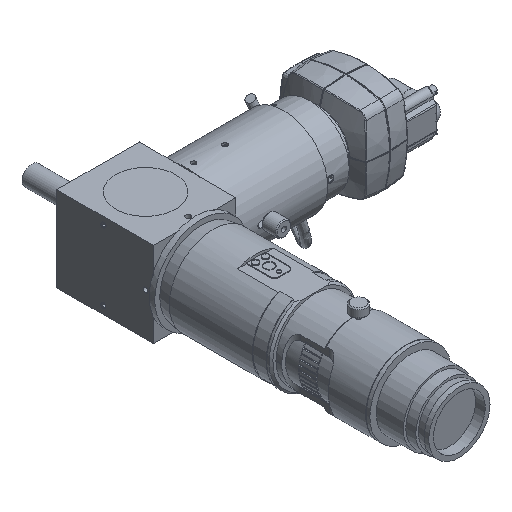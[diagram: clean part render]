
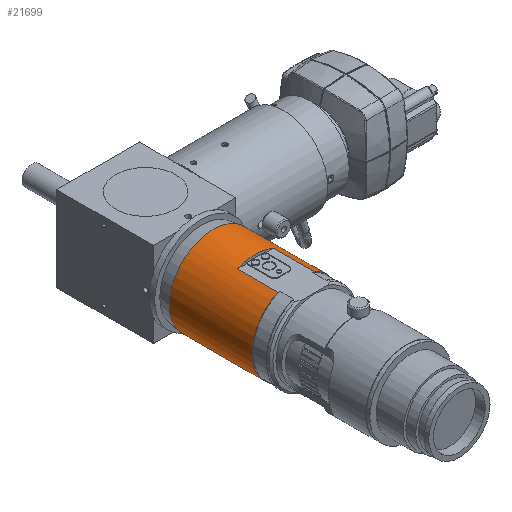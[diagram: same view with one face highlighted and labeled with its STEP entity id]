
A CAD part, isometric view. The second image highlights one B-rep face of the part: STEP entity #21699.
In plain terms, the highlighted cylindrical face has radius 22.65 mm (diameter 45.3 mm), a full revolution.
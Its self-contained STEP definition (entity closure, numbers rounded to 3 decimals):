
#1807=CYLINDRICAL_SURFACE('',#23500,22.65);
#2766=FACE_OUTER_BOUND('',#4020,.T.);
#4020=EDGE_LOOP('',(#17313,#17314,#17315,#17316,#17317,#17318,#17319,#17320,
#17321));
#5106=CIRCLE('',#23460,22.65);
#5107=CIRCLE('',#23461,22.65);
#5134=CIRCLE('',#23497,22.65);
#5135=CIRCLE('',#23498,22.65);
#5137=CIRCLE('',#23501,22.65);
#6174=LINE('',#49373,#7525);
#6175=LINE('',#49376,#7526);
#6176=LINE('',#49377,#7527);
#7525=VECTOR('',#27594,10.);
#7526=VECTOR('',#27597,10.);
#7527=VECTOR('',#27598,22.65);
#9519=VERTEX_POINT('',#49130);
#9520=VERTEX_POINT('',#49131);
#9561=VERTEX_POINT('',#49362);
#9562=VERTEX_POINT('',#49364);
#9563=VERTEX_POINT('',#49366);
#9565=VERTEX_POINT('',#49372);
#9566=VERTEX_POINT('',#49374);
#12226=EDGE_CURVE('',#9519,#9520,#5106,.T.);
#12227=EDGE_CURVE('',#9520,#9519,#5107,.T.);
#12274=EDGE_CURVE('',#9561,#9562,#5134,.T.);
#12275=EDGE_CURVE('',#9562,#9563,#5135,.T.);
#12278=EDGE_CURVE('',#9561,#9565,#6174,.T.);
#12279=EDGE_CURVE('',#9565,#9566,#5137,.T.);
#12280=EDGE_CURVE('',#9566,#9563,#6175,.T.);
#12281=EDGE_CURVE('',#9562,#9520,#6176,.T.);
#17313=ORIENTED_EDGE('',*,*,#12278,.T.);
#17314=ORIENTED_EDGE('',*,*,#12279,.T.);
#17315=ORIENTED_EDGE('',*,*,#12280,.T.);
#17316=ORIENTED_EDGE('',*,*,#12275,.F.);
#17317=ORIENTED_EDGE('',*,*,#12281,.T.);
#17318=ORIENTED_EDGE('',*,*,#12227,.T.);
#17319=ORIENTED_EDGE('',*,*,#12226,.T.);
#17320=ORIENTED_EDGE('',*,*,#12281,.F.);
#17321=ORIENTED_EDGE('',*,*,#12274,.F.);
#21699=ADVANCED_FACE('',(#2766),#1807,.T.);
#23460=AXIS2_PLACEMENT_3D('',#49132,#27504,#27505);
#23461=AXIS2_PLACEMENT_3D('',#49133,#27506,#27507);
#23497=AXIS2_PLACEMENT_3D('',#49365,#27585,#27586);
#23498=AXIS2_PLACEMENT_3D('',#49367,#27587,#27588);
#23500=AXIS2_PLACEMENT_3D('',#49371,#27592,#27593);
#23501=AXIS2_PLACEMENT_3D('',#49375,#27595,#27596);
#27504=DIRECTION('center_axis',(0.,-1.,0.));
#27505=DIRECTION('ref_axis',(0.,0.,
1.));
#27506=DIRECTION('center_axis',(0.,-1.,0.));
#27507=DIRECTION('ref_axis',(0.,0.,
1.));
#27585=DIRECTION('center_axis',(0.,-1.,0.));
#27586=DIRECTION('ref_axis',(0.,0.,
1.));
#27587=DIRECTION('center_axis',(0.,-1.,0.));
#27588=DIRECTION('ref_axis',(0.,0.,
1.));
#27592=DIRECTION('center_axis',(0.,-1.,0.));
#27593=DIRECTION('ref_axis',(0.,0.,
1.));
#27594=DIRECTION('',(0.,1.,0.));
#27595=DIRECTION('center_axis',(0.,1.,0.));
#27596=DIRECTION('ref_axis',(0.,0.,
1.));
#27597=DIRECTION('',(0.,-1.,0.));
#27598=DIRECTION('',(0.,1.,0.));
#49130=CARTESIAN_POINT('',(-3.63,-29.155,27.65));
#49131=CARTESIAN_POINT('',(-3.63,-29.155,-17.65));
#49132=CARTESIAN_POINT('Origin',(-3.63,-29.155,5.));
#49133=CARTESIAN_POINT('Origin',(-3.63,-29.155,5.));
#49362=CARTESIAN_POINT('',(-12.936,-72.055,25.65));
#49364=CARTESIAN_POINT('',(-3.63,-72.055,-17.65));
#49365=CARTESIAN_POINT('Origin',(-3.63,-72.055,5.));
#49366=CARTESIAN_POINT('',(5.676,-72.055,25.65));
#49367=CARTESIAN_POINT('Origin',(-3.63,-72.055,5.));
#49371=CARTESIAN_POINT('Origin',(-3.63,-50.605,5.));
#49372=CARTESIAN_POINT('',(-12.936,-51.255,25.65));
#49373=CARTESIAN_POINT('',(-12.936,-50.605,25.65));
#49374=CARTESIAN_POINT('',(5.676,-51.255,25.65));
#49375=CARTESIAN_POINT('Origin',(-3.63,-51.255,5.));
#49376=CARTESIAN_POINT('',(5.676,-50.605,25.65));
#49377=CARTESIAN_POINT('',(-3.63,-50.605,-17.65));
